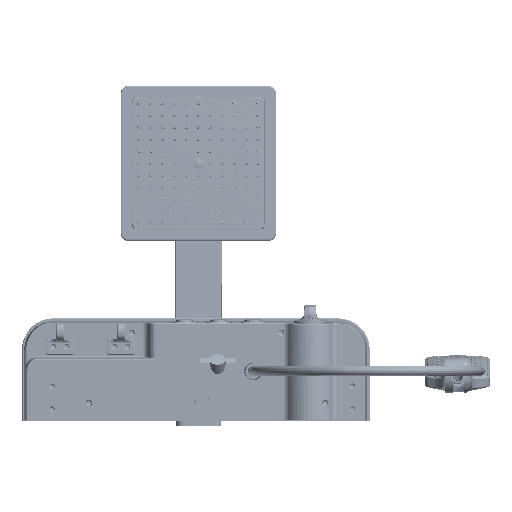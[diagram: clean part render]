
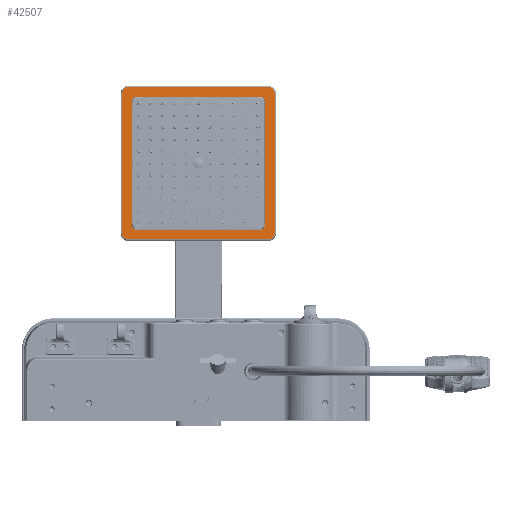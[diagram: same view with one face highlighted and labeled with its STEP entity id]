
A CAD part, top view. The second image highlights one B-rep face of the part: STEP entity #42507.
In plain terms, the highlighted planar face has unit normal (0, 0.052, 0.999).
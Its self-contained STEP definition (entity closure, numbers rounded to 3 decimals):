
#2498 = VECTOR ( 'NONE', #380153, 1000. ) ;
#8039 = ORIENTED_EDGE ( 'NONE', *, *, #426240, .F. ) ;
#8710 = ORIENTED_EDGE ( 'NONE', *, *, #420328, .F. ) ;
#8935 = VERTEX_POINT ( 'NONE', #144722 ) ;
#9600 = DIRECTION ( 'NONE',  ( 0., -0.999, 0.052 ) ) ;
#16795 = EDGE_CURVE ( 'NONE', #469196, #115211, #189035, .T. ) ;
#19474 = VERTEX_POINT ( 'NONE', #53812 ) ;
#20461 = VERTEX_POINT ( 'NONE', #357764 ) ;
#20830 = CARTESIAN_POINT ( 'NONE',  ( -2424.249, 249.711, -2336.129 ) ) ;
#29203 = CARTESIAN_POINT ( 'NONE',  ( -2609.249, 257.201, -2336.522 ) ) ;
#35382 = DIRECTION ( 'NONE',  ( 0., 0.052, 0.999 ) ) ;
#37369 = CIRCLE ( 'NONE', #394680, 7. ) ;
#39146 = DIRECTION ( 'NONE',  ( 1., 0., 0. ) ) ;
#42507 = ADVANCED_FACE ( 'NONE', ( #219942, #302364 ), #443491, .F. ) ;
#46661 = VECTOR ( 'NONE', #439083, 1000. ) ;
#49005 = DIRECTION ( 'NONE',  ( 1., 0., 0. ) ) ;
#53812 = CARTESIAN_POINT ( 'NONE',  ( -2416.749, 257.201, -2336.522 ) ) ;
#55666 = EDGE_CURVE ( 'NONE', #315502, #229043, #132996, .T. ) ;
#57000 = EDGE_LOOP ( 'NONE', ( #442730, #416469, #428521, #167612, #565365, #450391, #8039, #264404 ) ) ;
#57536 = CARTESIAN_POINT ( 'NONE',  ( -2597.249, 262.194, -2336.783 ) ) ;
#63625 = AXIS2_PLACEMENT_3D ( 'NONE', #564905, #161824, #341285 ) ;
#69999 = DIRECTION ( 'NONE',  ( 0., -0.052, -0.999 ) ) ;
#73263 = CIRCLE ( 'NONE', #336188, 7. ) ;
#73461 = CARTESIAN_POINT ( 'NONE',  ( -2436.249, 429.964, -2345.576 ) ) ;
#74672 = EDGE_CURVE ( 'NONE', #352034, #20461, #168548, .T. ) ;
#77113 = LINE ( 'NONE', #386069, #517718 ) ;
#86094 = DIRECTION ( 'NONE',  ( -1., 0., 0. ) ) ;
#108182 = EDGE_CURVE ( 'NONE', #229043, #221633, #504485, .T. ) ;
#115211 = VERTEX_POINT ( 'NONE', #476104 ) ;
#119207 = CARTESIAN_POINT ( 'NONE',  ( -2609.249, 449.437, -2346.596 ) ) ;
#132173 = CARTESIAN_POINT ( 'NONE',  ( -2436.249, 262.194, -2336.783 ) ) ;
#132996 = LINE ( 'NONE', #312497, #504702 ) ;
#136899 = VERTEX_POINT ( 'NONE', #417238 ) ;
#138244 = DIRECTION ( 'NONE',  ( -1., 0., 0. ) ) ;
#144722 = CARTESIAN_POINT ( 'NONE',  ( -2604.249, 269.184, -2337.15 ) ) ;
#152567 = VERTEX_POINT ( 'NONE', #403312 ) ;
#161824 = DIRECTION ( 'NONE',  ( 0., -0.052, -0.999 ) ) ;
#164485 = AXIS2_PLACEMENT_3D ( 'NONE', #73461, #299892, #49005 ) ;
#167612 = ORIENTED_EDGE ( 'NONE', *, *, #543766, .F. ) ;
#168548 = LINE ( 'NONE', #442104, #286430 ) ;
#172944 = AXIS2_PLACEMENT_3D ( 'NONE', #436214, #345070, #86094 ) ;
#189035 = LINE ( 'NONE', #421240, #379929 ) ;
#194554 = DIRECTION ( 'NONE',  ( -1., 0., 0. ) ) ;
#199827 = CIRCLE ( 'NONE', #322063, 7. ) ;
#206110 = VERTEX_POINT ( 'NONE', #367538 ) ;
#207542 = AXIS2_PLACEMENT_3D ( 'NONE', #267023, #575935, #440556 ) ;
#211496 = DIRECTION ( 'NONE',  ( 0., -0.052, -0.999 ) ) ;
#217413 = DIRECTION ( 'NONE',  ( 0., 0.052, 0.999 ) ) ;
#219942 = FACE_BOUND ( 'NONE', #57000, .T. ) ;
#221633 = VERTEX_POINT ( 'NONE', #476674 ) ;
#229043 = VERTEX_POINT ( 'NONE', #543669 ) ;
#232946 = ORIENTED_EDGE ( 'NONE', *, *, #108182, .F. ) ;
#233157 = LINE ( 'NONE', #412552, #301123 ) ;
#235891 = CARTESIAN_POINT ( 'NONE',  ( -2416.749, 441.947, -2346.204 ) ) ;
#246979 = DIRECTION ( 'NONE',  ( 0., -0.999, 0.052 ) ) ;
#246987 = VERTEX_POINT ( 'NONE', #305103 ) ;
#253433 = CARTESIAN_POINT ( 'NONE',  ( -2429.249, 269.184, -2337.15 ) ) ;
#258932 = EDGE_CURVE ( 'NONE', #19474, #315502, #440732, .T. ) ;
#260891 = CIRCLE ( 'NONE', #63625, 7.5 ) ;
#264404 = ORIENTED_EDGE ( 'NONE', *, *, #499144, .F. ) ;
#267023 = CARTESIAN_POINT ( 'NONE',  ( -2697.249, 239.711, -2335.605 ) ) ;
#268000 = ORIENTED_EDGE ( 'NONE', *, *, #536684, .F. ) ;
#281066 = LINE ( 'NONE', #57536, #2498 ) ;
#284822 = EDGE_CURVE ( 'NONE', #246987, #352034, #388768, .T. ) ;
#286430 = VECTOR ( 'NONE', #39146, 1000. ) ;
#287825 = EDGE_LOOP ( 'NONE', ( #8710, #557721, #288190, #268000, #232946, #362300, #542781, #520865 ) ) ;
#288190 = ORIENTED_EDGE ( 'NONE', *, *, #284822, .F. ) ;
#296418 = CIRCLE ( 'NONE', #164485, 7. ) ;
#299892 = DIRECTION ( 'NONE',  ( 0., 0.052, 0.999 ) ) ;
#301123 = VECTOR ( 'NONE', #9600, 1000. ) ;
#302364 = FACE_OUTER_BOUND ( 'NONE', #287825, .T. ) ;
#305103 = CARTESIAN_POINT ( 'NONE',  ( -2616.749, 441.947, -2346.204 ) ) ;
#312497 = CARTESIAN_POINT ( 'NONE',  ( -2424.249, 249.711, -2336.129 ) ) ;
#315294 = VECTOR ( 'NONE', #371159, 1000. ) ;
#315502 = VERTEX_POINT ( 'NONE', #20830 ) ;
#322063 = AXIS2_PLACEMENT_3D ( 'NONE', #438327, #35382, #576619 ) ;
#323494 = CARTESIAN_POINT ( 'NONE',  ( -2597.249, 269.184, -2337.15 ) ) ;
#336188 = AXIS2_PLACEMENT_3D ( 'NONE', #520548, #217413, #535095 ) ;
#336940 = VERTEX_POINT ( 'NONE', #253433 ) ;
#341285 = DIRECTION ( 'NONE',  ( 0., 0.999, -0.052 ) ) ;
#345070 = DIRECTION ( 'NONE',  ( 0., -0.052, -0.999 ) ) ;
#346485 = CARTESIAN_POINT ( 'NONE',  ( -2436.249, 436.954, -2345.942 ) ) ;
#351715 = VERTEX_POINT ( 'NONE', #132173 ) ;
#352034 = VERTEX_POINT ( 'NONE', #119207 ) ;
#356744 = CARTESIAN_POINT ( 'NONE',  ( -2616.749, 257.201, -2336.522 ) ) ;
#357764 = CARTESIAN_POINT ( 'NONE',  ( -2424.249, 449.437, -2346.596 ) ) ;
#361880 = DIRECTION ( 'NONE',  ( 0., 0.052, 0.999 ) ) ;
#362300 = ORIENTED_EDGE ( 'NONE', *, *, #55666, .F. ) ;
#367538 = CARTESIAN_POINT ( 'NONE',  ( -2597.249, 262.194, -2336.783 ) ) ;
#371159 = DIRECTION ( 'NONE',  ( 0., -0.999, 0.052 ) ) ;
#371349 = DIRECTION ( 'NONE',  ( -1., 0., 0. ) ) ;
#377274 = EDGE_CURVE ( 'NONE', #152567, #19474, #544840, .T. ) ;
#379929 = VECTOR ( 'NONE', #371349, 1000. ) ;
#380153 = DIRECTION ( 'NONE',  ( 1., 0., 0. ) ) ;
#384526 = AXIS2_PLACEMENT_3D ( 'NONE', #420154, #69999, #434577 ) ;
#386069 = CARTESIAN_POINT ( 'NONE',  ( -2429.249, 269.184, -2337.15 ) ) ;
#388768 = CIRCLE ( 'NONE', #172944, 7.5 ) ;
#389184 = LINE ( 'NONE', #356744, #46661 ) ;
#394680 = AXIS2_PLACEMENT_3D ( 'NONE', #323494, #361880, #138244 ) ;
#403312 = CARTESIAN_POINT ( 'NONE',  ( -2416.749, 441.947, -2346.204 ) ) ;
#412552 = CARTESIAN_POINT ( 'NONE',  ( -2604.249, 429.964, -2345.576 ) ) ;
#416469 = ORIENTED_EDGE ( 'NONE', *, *, #516655, .F. ) ;
#417238 = CARTESIAN_POINT ( 'NONE',  ( -2604.249, 429.964, -2345.576 ) ) ;
#420154 = CARTESIAN_POINT ( 'NONE',  ( -2424.249, 257.201, -2336.522 ) ) ;
#420328 = EDGE_CURVE ( 'NONE', #20461, #152567, #260891, .T. ) ;
#421240 = CARTESIAN_POINT ( 'NONE',  ( -2436.249, 436.954, -2345.942 ) ) ;
#426240 = EDGE_CURVE ( 'NONE', #136899, #8935, #233157, .T. ) ;
#428521 = ORIENTED_EDGE ( 'NONE', *, *, #561992, .F. ) ;
#434577 = DIRECTION ( 'NONE',  ( 1., 0., 0. ) ) ;
#436214 = CARTESIAN_POINT ( 'NONE',  ( -2609.249, 441.947, -2346.204 ) ) ;
#438327 = CARTESIAN_POINT ( 'NONE',  ( -2436.249, 269.184, -2337.15 ) ) ;
#439083 = DIRECTION ( 'NONE',  ( 0., 0.999, -0.052 ) ) ;
#440556 = DIRECTION ( 'NONE',  ( 0., -0.999, 0.052 ) ) ;
#440732 = CIRCLE ( 'NONE', #384526, 7.5 ) ;
#442104 = CARTESIAN_POINT ( 'NONE',  ( -2609.249, 449.437, -2346.596 ) ) ;
#442730 = ORIENTED_EDGE ( 'NONE', *, *, #16795, .F. ) ;
#443491 = PLANE ( 'NONE',  #207542 ) ;
#449394 = VERTEX_POINT ( 'NONE', #461339 ) ;
#450391 = ORIENTED_EDGE ( 'NONE', *, *, #537869, .F. ) ;
#461339 = CARTESIAN_POINT ( 'NONE',  ( -2429.249, 429.964, -2345.576 ) ) ;
#469196 = VERTEX_POINT ( 'NONE', #346485 ) ;
#476104 = CARTESIAN_POINT ( 'NONE',  ( -2597.249, 436.954, -2345.942 ) ) ;
#476674 = CARTESIAN_POINT ( 'NONE',  ( -2616.749, 257.201, -2336.522 ) ) ;
#499144 = EDGE_CURVE ( 'NONE', #115211, #136899, #73263, .T. ) ;
#504485 = CIRCLE ( 'NONE', #579672, 7.5 ) ;
#504702 = VECTOR ( 'NONE', #194554, 1000. ) ;
#510637 = EDGE_CURVE ( 'NONE', #206110, #351715, #281066, .T. ) ;
#516655 = EDGE_CURVE ( 'NONE', #449394, #469196, #296418, .T. ) ;
#517718 = VECTOR ( 'NONE', #571332, 1000. ) ;
#520548 = CARTESIAN_POINT ( 'NONE',  ( -2597.249, 429.964, -2345.576 ) ) ;
#520865 = ORIENTED_EDGE ( 'NONE', *, *, #377274, .F. ) ;
#535095 = DIRECTION ( 'NONE',  ( 0., 0.999, -0.052 ) ) ;
#536684 = EDGE_CURVE ( 'NONE', #221633, #246987, #389184, .T. ) ;
#537869 = EDGE_CURVE ( 'NONE', #8935, #206110, #37369, .T. ) ;
#542781 = ORIENTED_EDGE ( 'NONE', *, *, #258932, .F. ) ;
#543669 = CARTESIAN_POINT ( 'NONE',  ( -2609.249, 249.711, -2336.129 ) ) ;
#543766 = EDGE_CURVE ( 'NONE', #351715, #336940, #199827, .T. ) ;
#544840 = LINE ( 'NONE', #235891, #315294 ) ;
#557721 = ORIENTED_EDGE ( 'NONE', *, *, #74672, .F. ) ;
#561992 = EDGE_CURVE ( 'NONE', #336940, #449394, #77113, .T. ) ;
#564905 = CARTESIAN_POINT ( 'NONE',  ( -2424.249, 441.947, -2346.204 ) ) ;
#565365 = ORIENTED_EDGE ( 'NONE', *, *, #510637, .F. ) ;
#571332 = DIRECTION ( 'NONE',  ( 0., 0.999, -0.052 ) ) ;
#575935 = DIRECTION ( 'NONE',  ( 0., -0.052, -0.999 ) ) ;
#576619 = DIRECTION ( 'NONE',  ( 0., -0.999, 0.052 ) ) ;
#579672 = AXIS2_PLACEMENT_3D ( 'NONE', #29203, #211496, #246979 ) ;
